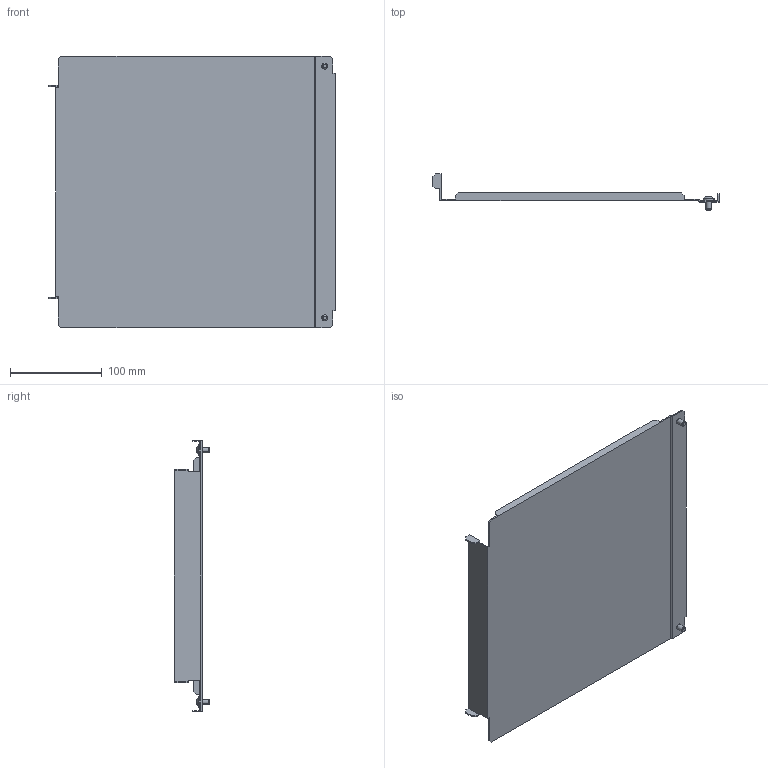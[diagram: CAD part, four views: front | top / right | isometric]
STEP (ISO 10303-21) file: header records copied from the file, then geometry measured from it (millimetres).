
FILE_DESCRIPTION (( 'STEP AP214' ), '1' );
FILE_NAME ('FO-00-PVHC-035 Ïåðåãîðîäêà àïïàðàòíîãî îòñåêà áîêîâàÿ âåðòèêàëüíàÿ ñïëîøíàÿ âûñîòà 350 ìì.STEP', '2025-08-18T06:37:26', ( '' ), ( '' ), 'SwSTEP 2.0', 'SolidWorks 2023', '' );
FILE_SCHEMA (( 'AUTOMOTIVE_DESIGN' ));
Length unit declared in the file: millimetre
Products named in the file (1): FO-00-PVHC-035 Перегородка аппаратного отсека боковая вертикальная сплошная высота 350 мм
Bounding box: 312.84 x 38.98 x 297 mm (x, y, z)
Volume: 154979.3 mm3; surface area: 207792.1 mm2
Topology: 1 solids, 1 shells, 130 faces, 360 edges, 236 vertices
Faces by surface type: plane 76, cylinder 42, torus 4, cone 4, sphere 4
Entity records: 4207 total; most frequent: CARTESIAN_POINT 861, ORIENTED_EDGE 720, DIRECTION 658, EDGE_CURVE 360, LINE 256, VECTOR 256, VERTEX_POINT 236, AXIS2_PLACEMENT_3D 201
